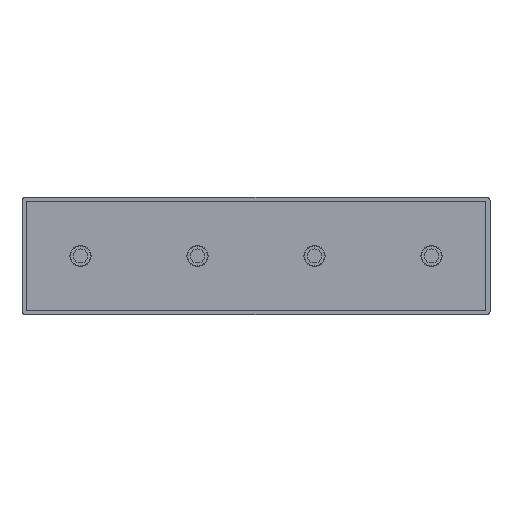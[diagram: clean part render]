
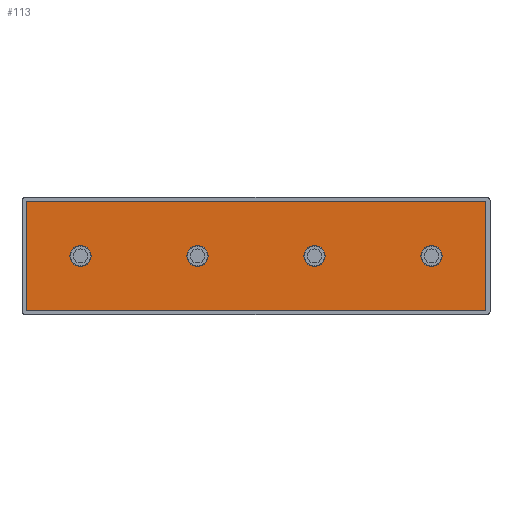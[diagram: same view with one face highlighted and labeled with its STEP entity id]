
A CAD part, top view. The second image highlights one B-rep face of the part: STEP entity #113.
In plain terms, the highlighted planar face has unit normal (0, 0, 1).
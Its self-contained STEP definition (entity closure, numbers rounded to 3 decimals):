
#59 = ORIENTED_EDGE ( 'NONE', *, *, #1397, .F. ) ;
#68 = VECTOR ( 'NONE', #1485, 1000. ) ;
#70 = FACE_OUTER_BOUND ( 'NONE', #1133, .T. ) ;
#113 = ADVANCED_FACE ( 'NONE', ( #1218, #1496, #991, #1157, #70 ), #1630, .F. ) ;
#124 = CARTESIAN_POINT ( 'NONE',  ( 23.6, 0., 1.5 ) ) ;
#146 = CARTESIAN_POINT ( 'NONE',  ( -16.4, 0., 1.5 ) ) ;
#147 = CARTESIAN_POINT ( 'NONE',  ( 78.5, -18.5, 1.5 ) ) ;
#159 = ORIENTED_EDGE ( 'NONE', *, *, #1205, .F. ) ;
#186 = CIRCLE ( 'NONE', #709, 3.6 ) ;
#196 = AXIS2_PLACEMENT_3D ( 'NONE', #404, #1544, #981 ) ;
#203 = VECTOR ( 'NONE', #852, 1000. ) ;
#207 = VERTEX_POINT ( 'NONE', #1502 ) ;
#224 = AXIS2_PLACEMENT_3D ( 'NONE', #1437, #1550, #961 ) ;
#226 = CARTESIAN_POINT ( 'NONE',  ( -60., 0., 1.5 ) ) ;
#232 = EDGE_LOOP ( 'NONE', ( #876, #59 ) ) ;
#253 = CIRCLE ( 'NONE', #653, 3.6 ) ;
#254 = EDGE_CURVE ( 'NONE', #580, #207, #343, .T. ) ;
#260 = DIRECTION ( 'NONE',  ( 0., 0., 1. ) ) ;
#266 = CARTESIAN_POINT ( 'NONE',  ( 56.4, 0., 1.5 ) ) ;
#280 = VERTEX_POINT ( 'NONE', #536 ) ;
#282 = DIRECTION ( 'NONE',  ( -1., 0., 0. ) ) ;
#318 = ORIENTED_EDGE ( 'NONE', *, *, #1313, .F. ) ;
#342 = CIRCLE ( 'NONE', #1275, 3.6 ) ;
#343 = LINE ( 'NONE', #406, #1196 ) ;
#345 = VERTEX_POINT ( 'NONE', #1121 ) ;
#350 = CARTESIAN_POINT ( 'NONE',  ( 20., 0., 1.5 ) ) ;
#355 = CIRCLE ( 'NONE', #1267, 3.6 ) ;
#359 = DIRECTION ( 'NONE',  ( -1., 0., 0. ) ) ;
#369 = CARTESIAN_POINT ( 'NONE',  ( -78.5, -18.5, 1.5 ) ) ;
#390 = CARTESIAN_POINT ( 'NONE',  ( 78.5, 18.5, 1.5 ) ) ;
#391 = ORIENTED_EDGE ( 'NONE', *, *, #1709, .F. ) ;
#404 = CARTESIAN_POINT ( 'NONE',  ( 60., 0., 1.5 ) ) ;
#406 = CARTESIAN_POINT ( 'NONE',  ( -78.5, 18.5, 1.5 ) ) ;
#457 = AXIS2_PLACEMENT_3D ( 'NONE', #1308, #1040, #359 ) ;
#487 = DIRECTION ( 'NONE',  ( 0., 0., 1. ) ) ;
#488 = ORIENTED_EDGE ( 'NONE', *, *, #612, .F. ) ;
#492 = CARTESIAN_POINT ( 'NONE',  ( 20., 0., 1.5 ) ) ;
#519 = DIRECTION ( 'NONE',  ( -1., 0., 0. ) ) ;
#534 = ORIENTED_EDGE ( 'NONE', *, *, #1155, .F. ) ;
#536 = CARTESIAN_POINT ( 'NONE',  ( -63.6, 0., 1.5 ) ) ;
#543 = CARTESIAN_POINT ( 'NONE',  ( -20., 0., 1.5 ) ) ;
#548 = VERTEX_POINT ( 'NONE', #266 ) ;
#574 = CARTESIAN_POINT ( 'NONE',  ( -78.5, -18.5, 1.5 ) ) ;
#580 = VERTEX_POINT ( 'NONE', #390 ) ;
#612 = EDGE_CURVE ( 'NONE', #809, #726, #253, .T. ) ;
#637 = EDGE_CURVE ( 'NONE', #280, #797, #342, .T. ) ;
#638 = VERTEX_POINT ( 'NONE', #124 ) ;
#653 = AXIS2_PLACEMENT_3D ( 'NONE', #543, #260, #519 ) ;
#659 = DIRECTION ( 'NONE',  ( -1., 0., 0. ) ) ;
#709 = AXIS2_PLACEMENT_3D ( 'NONE', #925, #1602, #1579 ) ;
#711 = VERTEX_POINT ( 'NONE', #1600 ) ;
#726 = VERTEX_POINT ( 'NONE', #1552 ) ;
#732 = ORIENTED_EDGE ( 'NONE', *, *, #637, .F. ) ;
#797 = VERTEX_POINT ( 'NONE', #973 ) ;
#809 = VERTEX_POINT ( 'NONE', #146 ) ;
#821 = CIRCLE ( 'NONE', #1372, 3.6 ) ;
#852 = DIRECTION ( 'NONE',  ( 1., 0., 0. ) ) ;
#875 = EDGE_LOOP ( 'NONE', ( #159, #391 ) ) ;
#876 = ORIENTED_EDGE ( 'NONE', *, *, #1598, .F. ) ;
#925 = CARTESIAN_POINT ( 'NONE',  ( 60., 0., 1.5 ) ) ;
#957 = EDGE_LOOP ( 'NONE', ( #732, #534 ) ) ;
#961 = DIRECTION ( 'NONE',  ( -1., 0., 0. ) ) ;
#968 = LINE ( 'NONE', #369, #1640 ) ;
#973 = CARTESIAN_POINT ( 'NONE',  ( -56.4, 0., 1.5 ) ) ;
#977 = CIRCLE ( 'NONE', #224, 3.6 ) ;
#981 = DIRECTION ( 'NONE',  ( -1., 0., 0. ) ) ;
#991 = FACE_BOUND ( 'NONE', #1644, .T. ) ;
#1024 = EDGE_CURVE ( 'NONE', #1613, #711, #1512, .T. ) ;
#1040 = DIRECTION ( 'NONE',  ( 0., 0., 1. ) ) ;
#1120 = EDGE_CURVE ( 'NONE', #207, #1613, #968, .T. ) ;
#1121 = CARTESIAN_POINT ( 'NONE',  ( 16.4, 0., 1.5 ) ) ;
#1133 = EDGE_LOOP ( 'NONE', ( #1194, #1222, #1221, #1450 ) ) ;
#1139 = LINE ( 'NONE', #147, #68 ) ;
#1155 = EDGE_CURVE ( 'NONE', #797, #280, #1439, .T. ) ;
#1157 = FACE_BOUND ( 'NONE', #957, .T. ) ;
#1186 = DIRECTION ( 'NONE',  ( 0., -1., 0. ) ) ;
#1194 = ORIENTED_EDGE ( 'NONE', *, *, #1234, .T. ) ;
#1196 = VECTOR ( 'NONE', #1446, 1000. ) ;
#1205 = EDGE_CURVE ( 'NONE', #345, #638, #355, .T. ) ;
#1218 = FACE_BOUND ( 'NONE', #232, .T. ) ;
#1221 = ORIENTED_EDGE ( 'NONE', *, *, #1120, .T. ) ;
#1222 = ORIENTED_EDGE ( 'NONE', *, *, #254, .T. ) ;
#1234 = EDGE_CURVE ( 'NONE', #711, #580, #1139, .T. ) ;
#1267 = AXIS2_PLACEMENT_3D ( 'NONE', #492, #1530, #659 ) ;
#1268 = DIRECTION ( 'NONE',  ( -1., 0., 0. ) ) ;
#1275 = AXIS2_PLACEMENT_3D ( 'NONE', #226, #487, #1290 ) ;
#1290 = DIRECTION ( 'NONE',  ( -1., 0., 0. ) ) ;
#1308 = CARTESIAN_POINT ( 'NONE',  ( -60., 0., 1.5 ) ) ;
#1313 = EDGE_CURVE ( 'NONE', #726, #809, #977, .T. ) ;
#1319 = DIRECTION ( 'NONE',  ( 0., 0., 1. ) ) ;
#1334 = AXIS2_PLACEMENT_3D ( 'NONE', #1453, #1468, #1268 ) ;
#1361 = VERTEX_POINT ( 'NONE', #1723 ) ;
#1372 = AXIS2_PLACEMENT_3D ( 'NONE', #350, #1319, #282 ) ;
#1376 = CIRCLE ( 'NONE', #196, 3.6 ) ;
#1397 = EDGE_CURVE ( 'NONE', #1361, #548, #186, .T. ) ;
#1437 = CARTESIAN_POINT ( 'NONE',  ( -20., 0., 1.5 ) ) ;
#1439 = CIRCLE ( 'NONE', #457, 3.6 ) ;
#1446 = DIRECTION ( 'NONE',  ( -1., 0., 0. ) ) ;
#1450 = ORIENTED_EDGE ( 'NONE', *, *, #1024, .T. ) ;
#1453 = CARTESIAN_POINT ( 'NONE',  ( 0., 0., 1.5 ) ) ;
#1457 = CARTESIAN_POINT ( 'NONE',  ( -78.5, -18.5, 1.5 ) ) ;
#1468 = DIRECTION ( 'NONE',  ( 0., 0., -1. ) ) ;
#1485 = DIRECTION ( 'NONE',  ( 0., 1., 0. ) ) ;
#1496 = FACE_BOUND ( 'NONE', #875, .T. ) ;
#1502 = CARTESIAN_POINT ( 'NONE',  ( -78.5, 18.5, 1.5 ) ) ;
#1512 = LINE ( 'NONE', #574, #203 ) ;
#1530 = DIRECTION ( 'NONE',  ( 0., 0., 1. ) ) ;
#1544 = DIRECTION ( 'NONE',  ( 0., 0., 1. ) ) ;
#1550 = DIRECTION ( 'NONE',  ( 0., 0., 1. ) ) ;
#1552 = CARTESIAN_POINT ( 'NONE',  ( -23.6, 0., 1.5 ) ) ;
#1579 = DIRECTION ( 'NONE',  ( -1., 0., 0. ) ) ;
#1598 = EDGE_CURVE ( 'NONE', #548, #1361, #1376, .T. ) ;
#1600 = CARTESIAN_POINT ( 'NONE',  ( 78.5, -18.5, 1.5 ) ) ;
#1602 = DIRECTION ( 'NONE',  ( 0., 0., 1. ) ) ;
#1613 = VERTEX_POINT ( 'NONE', #1457 ) ;
#1630 = PLANE ( 'NONE',  #1334 ) ;
#1640 = VECTOR ( 'NONE', #1186, 1000. ) ;
#1644 = EDGE_LOOP ( 'NONE', ( #318, #488 ) ) ;
#1709 = EDGE_CURVE ( 'NONE', #638, #345, #821, .T. ) ;
#1723 = CARTESIAN_POINT ( 'NONE',  ( 63.6, 0., 1.5 ) ) ;
